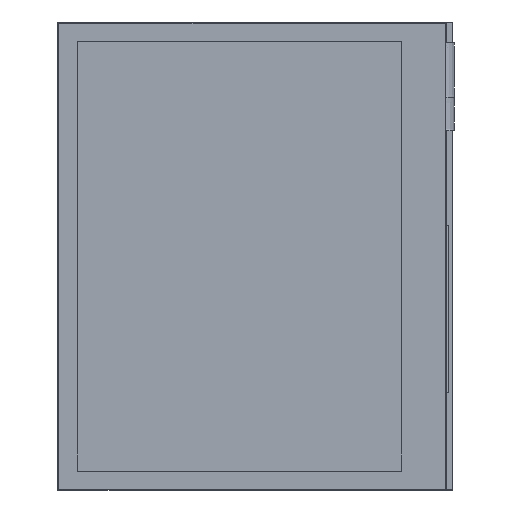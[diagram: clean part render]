
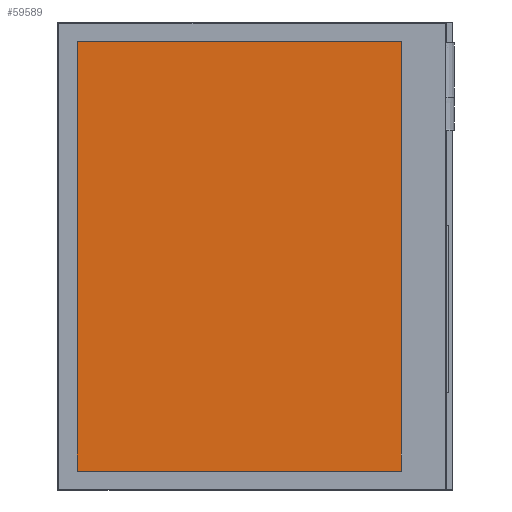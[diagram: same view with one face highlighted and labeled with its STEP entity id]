
A CAD part, top view. The second image highlights one B-rep face of the part: STEP entity #59589.
In plain terms, the highlighted planar face has unit normal (0, 0, 1).
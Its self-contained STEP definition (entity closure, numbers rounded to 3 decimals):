
#58529=DIRECTION('',(0.,1.,0.));
#58530=VECTOR('',#58529,70.68);
#58531=CARTESIAN_POINT('',(3.17,3.11,7.55));
#58532=LINE('',#58531,#58530);
#58536=DIRECTION('',(-1.,0.,0.));
#58537=VECTOR('',#58536,53.36);
#58538=CARTESIAN_POINT('',(56.53,73.79,7.55));
#58539=LINE('',#58538,#58537);
#58543=DIRECTION('',(0.,1.,0.));
#58544=VECTOR('',#58543,70.68);
#58545=CARTESIAN_POINT('',(56.53,3.11,7.55));
#58546=LINE('',#58545,#58544);
#58550=DIRECTION('',(-1.,0.,0.));
#58551=VECTOR('',#58550,53.36);
#58552=CARTESIAN_POINT('',(56.53,3.11,7.55));
#58553=LINE('',#58552,#58551);
#59118=CARTESIAN_POINT('',(3.17,3.11,7.55));
#59119=CARTESIAN_POINT('',(3.17,73.79,7.55));
#59120=VERTEX_POINT('',#59118);
#59121=VERTEX_POINT('',#59119);
#59122=CARTESIAN_POINT('',(56.53,73.79,7.55));
#59123=VERTEX_POINT('',#59122);
#59124=CARTESIAN_POINT('',(56.53,3.11,7.55));
#59125=VERTEX_POINT('',#59124);
#59575=CARTESIAN_POINT('',(29.85,38.45,7.55));
#59576=DIRECTION('',(0.,0.,1.));
#59577=DIRECTION('',(0.,1.,0.));
#59578=AXIS2_PLACEMENT_3D('',#59575,#59576,#59577);
#59579=PLANE('',#59578);
#59580=ORIENTED_EDGE('',*,*,#59565,.T.);
#59582=ORIENTED_EDGE('',*,*,#59581,.F.);
#59584=ORIENTED_EDGE('',*,*,#59583,.F.);
#59586=ORIENTED_EDGE('',*,*,#59585,.T.);
#59587=EDGE_LOOP('',(#59580,#59582,#59584,#59586));
#59588=FACE_OUTER_BOUND('',#59587,.F.);
#59589=ADVANCED_FACE('',(#59588),#59579,.T.);
#59565=EDGE_CURVE('',#59120,#59121,#58532,.T.);
#59581=EDGE_CURVE('',#59123,#59121,#58539,.T.);
#59583=EDGE_CURVE('',#59125,#59123,#58546,.T.);
#59585=EDGE_CURVE('',#59125,#59120,#58553,.T.);
